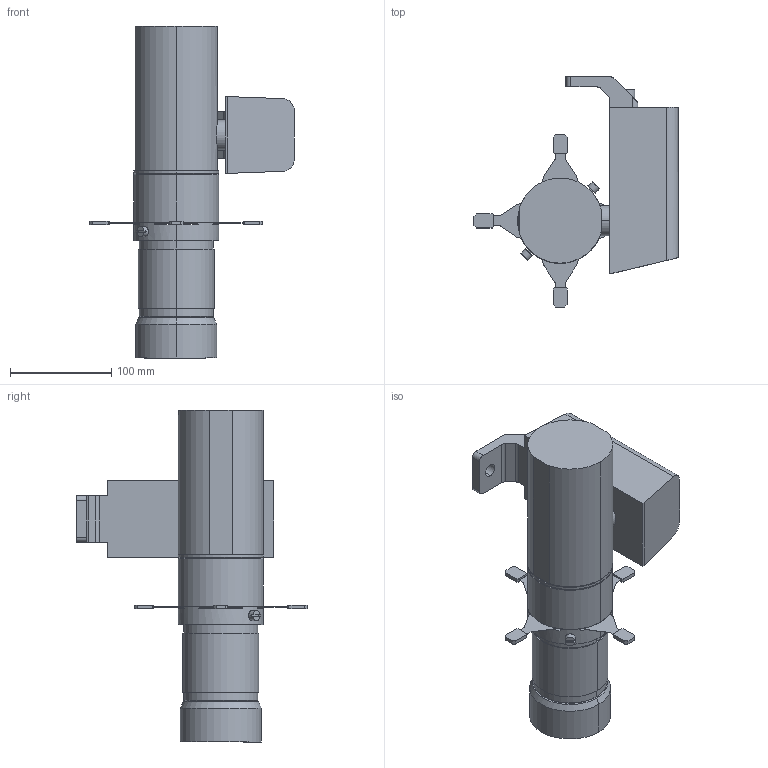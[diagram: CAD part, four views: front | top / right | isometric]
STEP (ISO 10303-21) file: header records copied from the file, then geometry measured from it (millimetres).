
FILE_DESCRIPTION (( 'STEP AP203' ), '1' );
FILE_NAME ('P1L (Clamp_Sidecar_W)_Hanging+19D_10-06-2026.STEP', '2026-06-11T05:22:46', ( '' ), ( '' ), 'SwSTEP 2.0', 'SolidWorks 2014', '' );
FILE_SCHEMA (( 'CONFIG_CONTROL_DESIGN' ));
Length unit declared in the file: millimetre
Products named in the file (4): P1L (Clamp_Sidecar_W)_Hanging+19D_10-06-2026; P1L - Light Body_W; 19D_Fresnel Lens_P1L_W; Sidecar_Yoke+PSU_(Clamp_W)
Assembly tree (3 placements, depth 2):
  P1L (Clamp_Sidecar_W)_Hanging+19D_10-06-2026
    Sidecar_Yoke+PSU_(Clamp_W)
    P1L - Light Body_W
    19D_Fresnel Lens_P1L_W
Bounding box: 201.56 x 227.16 x 327.5 mm (x, y, z)
Volume: 2439585.2 mm3; surface area: 190966.2 mm2
Topology: 3 solids, 3 shells, 262 faces, 693 edges, 450 vertices
Faces by surface type: plane 170, cylinder 78, cone 14
Entity records: 8653 total; most frequent: CARTESIAN_POINT 1585, DIRECTION 1409, ORIENTED_EDGE 1386, EDGE_CURVE 693, VECTOR 485, LINE 485, AXIS2_PLACEMENT_3D 462, VERTEX_POINT 450
